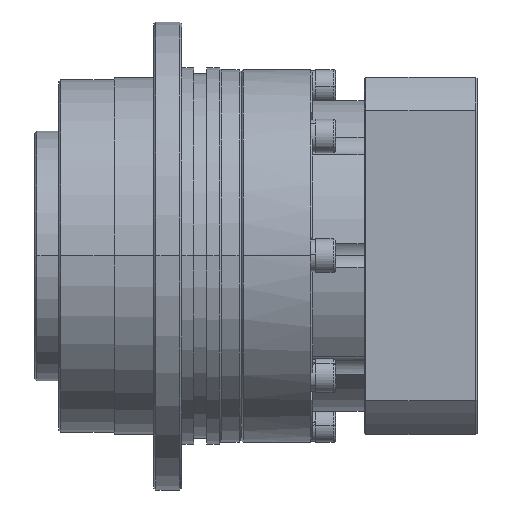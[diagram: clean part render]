
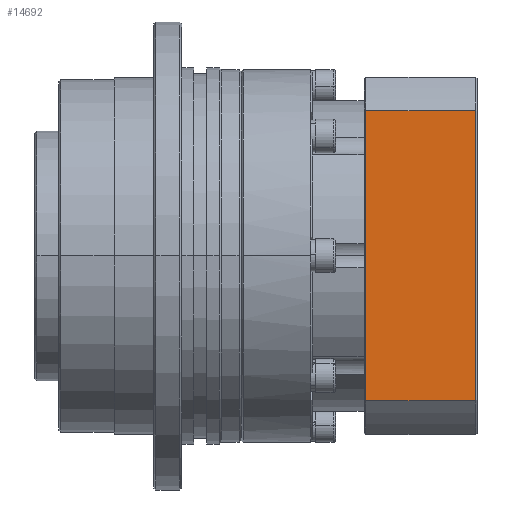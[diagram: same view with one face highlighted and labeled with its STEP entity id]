
A CAD part, top view. The second image highlights one B-rep face of the part: STEP entity #14692.
In plain terms, the highlighted planar face has unit normal (0, 0, 1).
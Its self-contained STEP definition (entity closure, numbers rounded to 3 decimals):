
#1757 = CARTESIAN_POINT ( 'NONE',  ( 0.4, -36.592, 45. ) ) ;
#2159 = CARTESIAN_POINT ( 'NONE',  ( -17.658, 36.592, 45. ) ) ;
#2289 = LINE ( 'NONE', #34964, #26621 ) ;
#2569 = FACE_OUTER_BOUND ( 'NONE', #15926, .T. ) ;
#2726 = VECTOR ( 'NONE', #23046, 1000. ) ;
#5044 = VECTOR ( 'NONE', #22063, 1000. ) ;
#5875 = VECTOR ( 'NONE', #17629, 1000. ) ;
#8920 = CARTESIAN_POINT ( 'NONE',  ( 0.4, 36.592, 45. ) ) ;
#9708 = ORIENTED_EDGE ( 'NONE', *, *, #18590, .F. ) ;
#10931 = CARTESIAN_POINT ( 'NONE',  ( 0., -36.592, 45. ) ) ;
#11156 = ORIENTED_EDGE ( 'NONE', *, *, #19169, .F. ) ;
#14692 = ADVANCED_FACE ( 'NONE', ( #2569 ), #27027, .F. ) ;
#15926 = EDGE_LOOP ( 'NONE', ( #11156, #34163, #9708, #21264 ) ) ;
#15983 = DIRECTION ( 'NONE',  ( 0., 1., 0. ) ) ;
#17188 = AXIS2_PLACEMENT_3D ( 'NONE', #10931, #18624, #29893 ) ;
#17629 = DIRECTION ( 'NONE',  ( 0., 1., 0. ) ) ;
#18590 = EDGE_CURVE ( 'NONE', #26610, #27666, #21416, .T. ) ;
#18624 = DIRECTION ( 'NONE',  ( 0., 0., -1. ) ) ;
#19169 = EDGE_CURVE ( 'NONE', #22874, #27620, #23371, .T. ) ;
#19377 = CARTESIAN_POINT ( 'NONE',  ( 28.1, 36.592, 45. ) ) ;
#21264 = ORIENTED_EDGE ( 'NONE', *, *, #25116, .T. ) ;
#21416 = LINE ( 'NONE', #35010, #5044 ) ;
#22063 = DIRECTION ( 'NONE',  ( -1., 0., 0. ) ) ;
#22874 = VERTEX_POINT ( 'NONE', #8920 ) ;
#23046 = DIRECTION ( 'NONE',  ( 1., 0., 0. ) ) ;
#23371 = LINE ( 'NONE', #2159, #2726 ) ;
#25116 = EDGE_CURVE ( 'NONE', #26610, #27620, #2289, .T. ) ;
#26204 = CARTESIAN_POINT ( 'NONE',  ( 28.1, -36.592, 45. ) ) ;
#26610 = VERTEX_POINT ( 'NONE', #26204 ) ;
#26621 = VECTOR ( 'NONE', #15983, 1000. ) ;
#27027 = PLANE ( 'NONE',  #17188 ) ;
#27620 = VERTEX_POINT ( 'NONE', #19377 ) ;
#27666 = VERTEX_POINT ( 'NONE', #30308 ) ;
#29893 = DIRECTION ( 'NONE',  ( -1., 0., 0. ) ) ;
#30308 = CARTESIAN_POINT ( 'NONE',  ( 0.4, -36.592, 45. ) ) ;
#31408 = LINE ( 'NONE', #1757, #5875 ) ;
#31873 = EDGE_CURVE ( 'NONE', #27666, #22874, #31408, .T. ) ;
#34163 = ORIENTED_EDGE ( 'NONE', *, *, #31873, .F. ) ;
#34964 = CARTESIAN_POINT ( 'NONE',  ( 28.1, -36.592, 45. ) ) ;
#35010 = CARTESIAN_POINT ( 'NONE',  ( 0., -36.592, 45. ) ) ;
